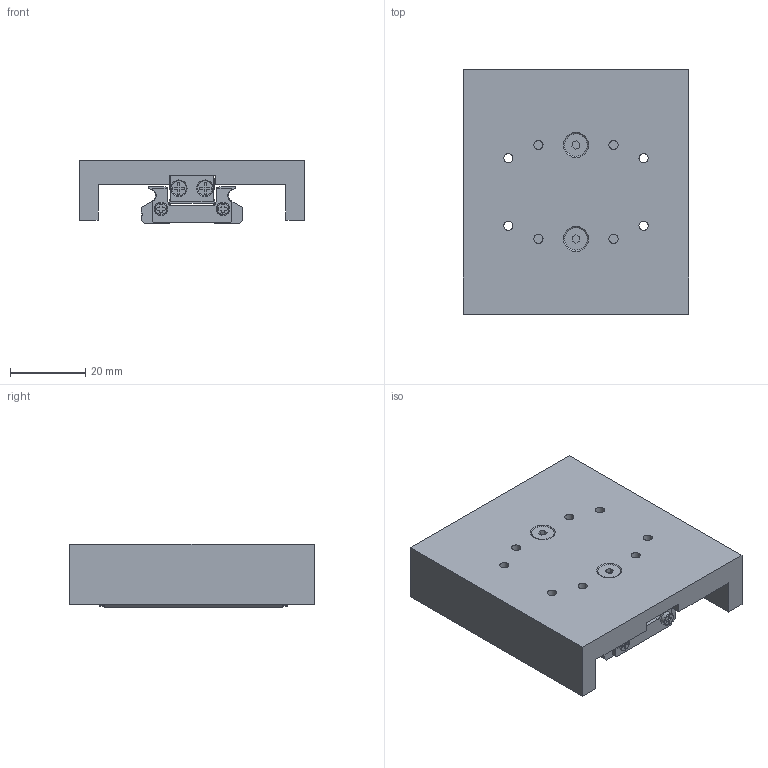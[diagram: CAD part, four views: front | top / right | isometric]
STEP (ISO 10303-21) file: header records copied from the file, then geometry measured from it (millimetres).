
FILE_DESCRIPTION(/* description */ ('MLO 60.055.044-ALU-SE'),/* implementation_level */ '2;1');
FILE_NAME(/* name */ 'ERO-078109.step',/* time_stamp */ '2025-07-02T13:12:44+02:00',/* author */ ('MM'),/* organization */ (''),/* preprocessor_version */ 'ST-DEVELOPER v19.2',/* originating_system */ 'Autodesk Inventor 2023',/* authorisation */ '');
FILE_SCHEMA (('AUTOMOTIVE_DESIGN { 1 0 10303 214 3 1 1 }'));
Length unit declared in the file: millimetre
Products named in the file (8): ERO-078109; ERO-041188; ERO-041186; ERO-041187; ERO-078110; ISO 10642 - M3 x  8 - A2/70; ISO 4032 - SW5,5 - M3 - A2; ERO-080427
Assembly tree (9 placements, depth 3):
  ERO-078109
    ERO-041188
      ERO-041186
      ERO-041187
    ERO-078110
    ISO 10642 - M3 x  8 - A2/70  x2
    ISO 4032 - SW5,5 - M3 - A2  x2
    ERO-080427
Bounding box: 60.01 x 65 x 17 mm (x, y, z)
Volume: 41376.8 mm3; surface area: 21133.8 mm2
Topology: 8 solids, 8 shells, 755 faces, 2002 edges, 1320 vertices
Faces by surface type: plane 577, cylinder 101, bspline 45, cone 26, torus 6
Full cylindrical faces by diameter (mm): 2.459 x10, 2.7 x4, 3 x2, 3.1 x4, 3.5 x8, 4 x4, 6 x6
Entity records: 23607 total; most frequent: CARTESIAN_POINT 4506, ORIENTED_EDGE 3872, DIRECTION 3501, EDGE_CURVE 1936, LINE 1567, VECTOR 1567, VERTEX_POINT 1280, AXIS2_PLACEMENT_3D 967
